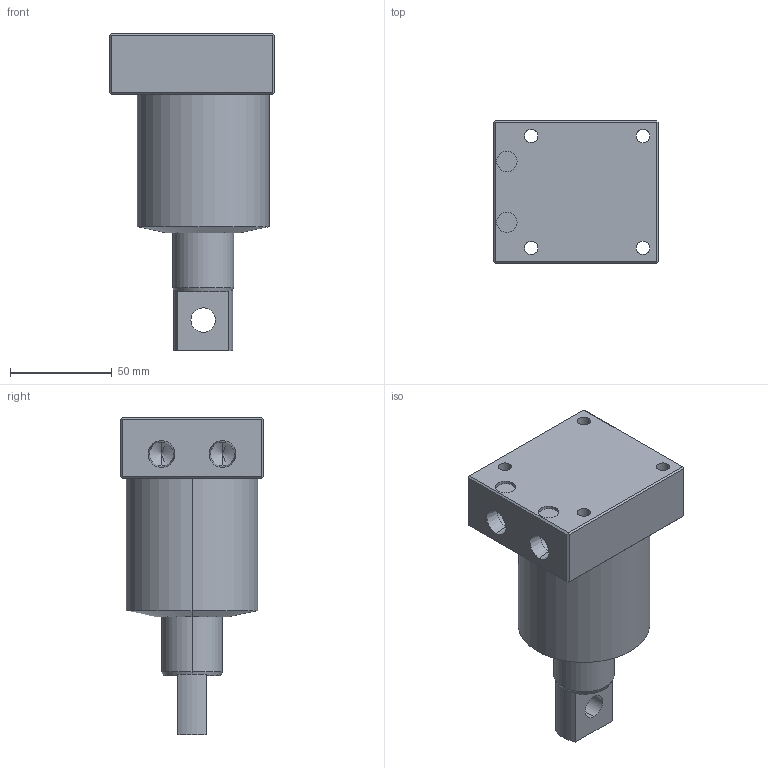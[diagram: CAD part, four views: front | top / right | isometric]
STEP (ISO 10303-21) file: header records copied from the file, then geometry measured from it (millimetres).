
FILE_DESCRIPTION (( 'STEP AP214' ), '1' );
FILE_NAME ('SB03-651-RH-BM-PTYPE.STEP', '2021-08-23T05:15:36', ( '' ), ( '' ), 'SwSTEP 2.0', 'SolidWorks 2019', '' );
FILE_SCHEMA (( 'AUTOMOTIVE_DESIGN' ));
Length unit declared in the file: millimetre
Products named in the file (3): 65-bm-body; 65-ptype-piston; SB03-651-RH-BM-PTYPE
Assembly tree (2 placements, depth 2):
  SB03-651-RH-BM-PTYPE
    65-bm-body
    65-ptype-piston
Bounding box: 81 x 70 x 156 mm (x, y, z)
Volume: 388333.3 mm3; surface area: 56388.7 mm2
Topology: 2 solids, 2 shells, 70 faces, 164 edges, 100 vertices
Faces by surface type: plane 31, cylinder 27, cone 12
Entity records: 2101 total; most frequent: DIRECTION 369, CARTESIAN_POINT 347, ORIENTED_EDGE 320, EDGE_CURVE 160, AXIS2_PLACEMENT_3D 138, VERTEX_POINT 100, VECTOR 93, LINE 93
